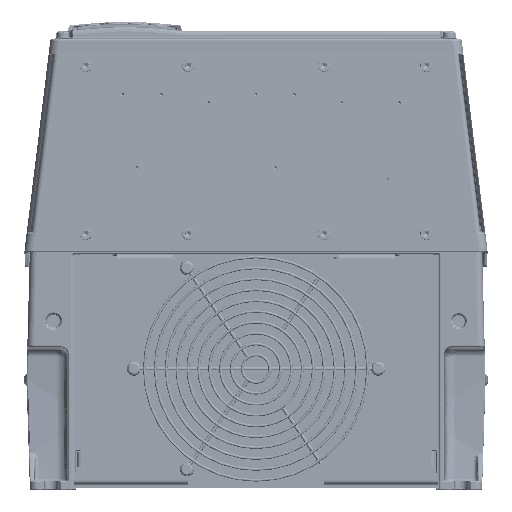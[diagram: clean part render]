
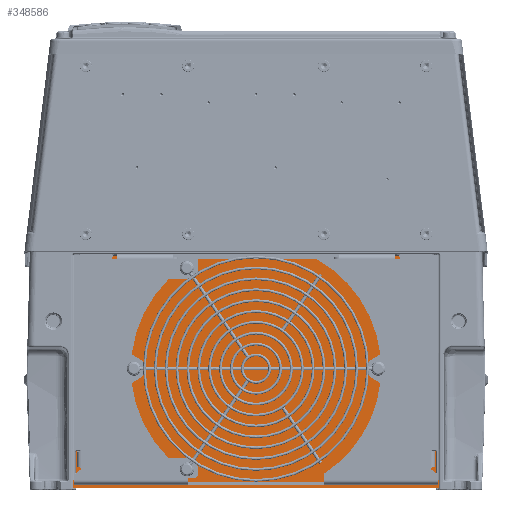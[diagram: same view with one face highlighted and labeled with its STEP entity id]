
A CAD part, front view. The second image highlights one B-rep face of the part: STEP entity #348586.
In plain terms, the highlighted planar face has unit normal (0, -1, 0).
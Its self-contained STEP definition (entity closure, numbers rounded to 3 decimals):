
#117871=DIRECTION('',(0.026,0.,-1.));
#117872=VECTOR('',#117871,153.118);
#117873=CARTESIAN_POINT('',(142.966,-280.301,
-5.935));
#117874=LINE('',#117873,#117872);
#117878=DIRECTION('',(0.026,0.,1.));
#117879=VECTOR('',#117878,153.118);
#117880=CARTESIAN_POINT('',(-146.974,-280.301,-159.));
#117881=LINE('',#117880,#117879);
#117885=CARTESIAN_POINT('',(-140.467,-280.301,-6.));
#117886=DIRECTION('',(0.,1.,0.));
#117887=DIRECTION('',(-1.,0.,0.026));
#117888=AXIS2_PLACEMENT_3D('',#117885,#117886,#117887);
#117893=DIRECTION('',(1.,0.,0.));
#117894=VECTOR('',#117893,285.516);
#117895=CARTESIAN_POINT('',(-142.758,-280.301,
-5.));
#117896=LINE('',#117895,#117894);
#117900=CARTESIAN_POINT('',(140.467,-280.301,-6.));
#117901=DIRECTION('',(0.,1.,0.));
#117902=DIRECTION('',(0.917,0.,0.4));
#117903=AXIS2_PLACEMENT_3D('',#117900,#117901,#117902);
#117980=CARTESIAN_POINT('',(142.758,-280.301,
-5.));
#121500=DIRECTION('',(1.,0.,0.));
#121501=VECTOR('',#121500,293.948);
#121502=CARTESIAN_POINT('',(-146.974,-280.301,-159.));
#121503=LINE('',#121502,#121501);
#202608=CARTESIAN_POINT('',(-146.974,-280.301,-159.));
#202609=CARTESIAN_POINT('',(-142.966,-280.301,
-5.935));
#202610=VERTEX_POINT('',#202608);
#202611=VERTEX_POINT('',#202609);
#202657=CARTESIAN_POINT('',(146.974,-280.301,-159.));
#202658=VERTEX_POINT('',#202657);
#203057=CARTESIAN_POINT('',(142.966,-280.301,
-5.935));
#203058=VERTEX_POINT('',#203057);
#203964=VERTEX_POINT('',#117980);
#203965=CARTESIAN_POINT('',(-142.758,-280.301,
-5.));
#203966=VERTEX_POINT('',#203965);
#348568=CARTESIAN_POINT('',(146.974,-280.301,-5.));
#348569=DIRECTION('',(0.,-1.,0.));
#348570=DIRECTION('',(-1.,0.,0.));
#348571=AXIS2_PLACEMENT_3D('',#348568,#348569,#348570);
#348572=PLANE('',#348571);
#348574=ORIENTED_EDGE('',*,*,#348573,.T.);
#348576=ORIENTED_EDGE('',*,*,#348575,.F.);
#348577=ORIENTED_EDGE('',*,*,#348542,.T.);
#348579=ORIENTED_EDGE('',*,*,#348578,.T.);
#348581=ORIENTED_EDGE('',*,*,#348580,.T.);
#348583=ORIENTED_EDGE('',*,*,#348582,.T.);
#348584=EDGE_LOOP('',(#348574,#348576,#348577,#348579,#348581,#348583));
#348585=FACE_OUTER_BOUND('',#348584,.F.);
#348586=ADVANCED_FACE('',(#348585),#348572,.T.);
#117889=CIRCLE('',#117888,2.5);
#117904=CIRCLE('',#117903,2.5);
#348542=EDGE_CURVE('',#202610,#202611,#117881,.T.);
#348573=EDGE_CURVE('',#203058,#202658,#117874,.T.);
#348575=EDGE_CURVE('',#202610,#202658,#121503,.T.);
#348578=EDGE_CURVE('',#202611,#203966,#117889,.T.);
#348580=EDGE_CURVE('',#203966,#203964,#117896,.T.);
#348582=EDGE_CURVE('',#203964,#203058,#117904,.T.);
